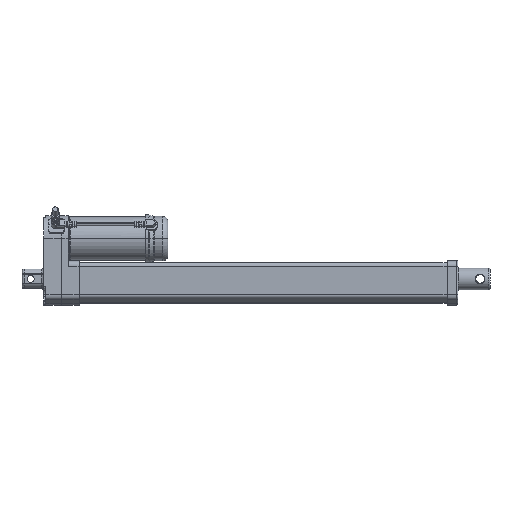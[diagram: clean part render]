
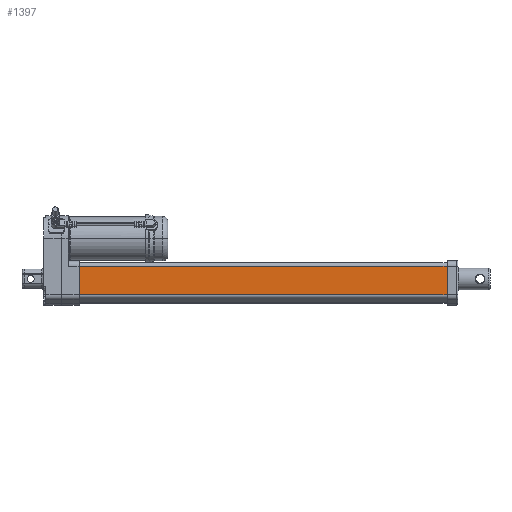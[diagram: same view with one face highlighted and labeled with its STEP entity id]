
A CAD part, top view. The second image highlights one B-rep face of the part: STEP entity #1397.
In plain terms, the highlighted planar face has unit normal (0, 0, 1).
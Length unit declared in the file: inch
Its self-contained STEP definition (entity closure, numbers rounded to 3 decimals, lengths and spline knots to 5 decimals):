
#1397=ADVANCED_FACE('',(#2848),#2849,.T.);
#2848=FACE_OUTER_BOUND('',#4491,.T.);
#2849=PLANE('',#4492);
#4491=EDGE_LOOP('',(#8673,#8674,#8675,#8676));
#4492=AXIS2_PLACEMENT_3D('',#8677,#8678,#8679);
#8673=ORIENTED_EDGE('',*,*,#10477,.F.);
#8674=ORIENTED_EDGE('',*,*,#9889,.F.);
#8675=ORIENTED_EDGE('',*,*,#9619,.T.);
#8676=ORIENTED_EDGE('',*,*,#10481,.T.);
#8677=CARTESIAN_POINT('',(14.58661,-0.5801,0.76772));
#8678=DIRECTION('',(0.0,-0.0,1.0));
#8679=DIRECTION('',(0.0,1.0,0.0));
#9619=EDGE_CURVE('',#11827,#11825,#11828,.T.);
#9889=EDGE_CURVE('',#11827,#12217,#12219,.T.);
#10477=EDGE_CURVE('',#12217,#12981,#12982,.T.);
#10481=EDGE_CURVE('',#11825,#12981,#12986,.T.);
#11825=VERTEX_POINT('',#14775);
#11827=VERTEX_POINT('',#14777);
#11828=LINE('',#14778,#14779);
#12217=VERTEX_POINT('',#15287);
#12219=LINE('',#15289,#15290);
#12981=VERTEX_POINT('',#16479);
#12982=LINE('',#16480,#16481);
#12986=LINE('',#16485,#16486);
#14775=CARTESIAN_POINT('',(14.58661,0.45276,0.76772));
#14777=CARTESIAN_POINT('',(14.58661,-0.5801,0.76772));
#14778=CARTESIAN_POINT('',(14.58661,-0.5801,0.76772));
#14779=VECTOR('',#17716,39.37008);
#15287=CARTESIAN_POINT('',(1.27953,-0.5801,0.76772));
#15289=CARTESIAN_POINT('',(14.58661,-0.5801,0.76772));
#15290=VECTOR('',#18096,39.37008);
#16479=CARTESIAN_POINT('',(1.27953,0.45276,0.76772));
#16480=CARTESIAN_POINT('',(1.27953,0.45276,0.76772));
#16481=VECTOR('',#18821,39.37008);
#16485=CARTESIAN_POINT('',(14.58661,0.45276,0.76772));
#16486=VECTOR('',#18825,39.37008);
#17716=DIRECTION('',(0.0,1.0,0.0));
#18096=DIRECTION('',(-1.0,0.0,0.0));
#18821=DIRECTION('',(0.0,1.0,0.0));
#18825=DIRECTION('',(-1.0,0.0,0.0));
